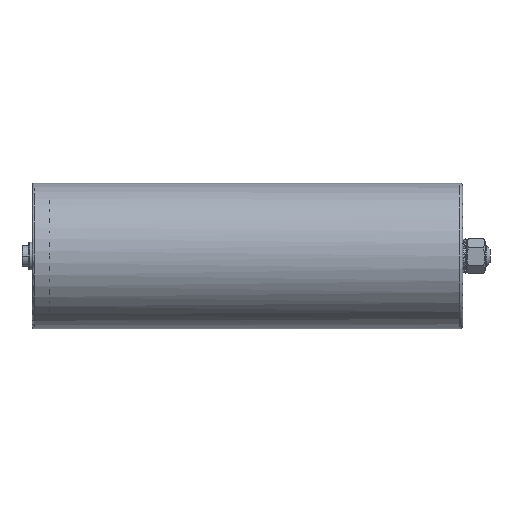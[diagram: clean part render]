
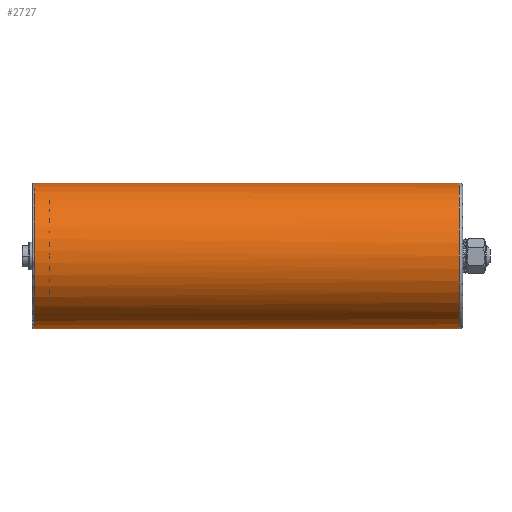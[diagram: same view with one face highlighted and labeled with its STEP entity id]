
A CAD part, left-side view. The second image highlights one B-rep face of the part: STEP entity #2727.
In plain terms, the highlighted cylindrical face has radius 42.5 mm (diameter 85 mm), a partial arc.
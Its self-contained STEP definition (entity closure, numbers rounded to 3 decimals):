
#767 = EDGE_LOOP ( 'NONE', ( #7817, #9267, #3539, #9266, #7613 ) ) ;
#1005 = CARTESIAN_POINT ( 'NONE',  ( -25.343, 250., -34.117 ) ) ;
#1024 = AXIS2_PLACEMENT_3D ( 'NONE', #6797, #8313, #1610 ) ;
#1082 = EDGE_CURVE ( 'NONE', #2530, #4454, #5154, .T. ) ;
#1486 = DIRECTION ( 'NONE',  ( 0., -1., 0. ) ) ;
#1610 = DIRECTION ( 'NONE',  ( 0.596, 0., 0.803 ) ) ;
#1776 = AXIS2_PLACEMENT_3D ( 'NONE', #2095, #5864, #1907 ) ;
#1858 = VECTOR ( 'NONE', #1486, 1000. ) ;
#1907 = DIRECTION ( 'NONE',  ( 0.596, 0., 0.803 ) ) ;
#2068 = AXIS2_PLACEMENT_3D ( 'NONE', #3958, #7081, #9261 ) ;
#2095 = CARTESIAN_POINT ( 'NONE',  ( 0., 250., 0. ) ) ;
#2493 = VERTEX_POINT ( 'NONE', #6908 ) ;
#2530 = VERTEX_POINT ( 'NONE', #7057 ) ;
#2727 = ADVANCED_FACE ( 'NONE', ( #5490 ), #4600, .T. ) ;
#2737 = EDGE_CURVE ( 'NONE', #2493, #3256, #6762, .T. ) ;
#2957 = CARTESIAN_POINT ( 'NONE',  ( 0., 0., -42.5 ) ) ;
#3256 = VERTEX_POINT ( 'NONE', #5947 ) ;
#3539 = ORIENTED_EDGE ( 'NONE', *, *, #5389, .T. ) ;
#3958 = CARTESIAN_POINT ( 'NONE',  ( 0., 2., 0. ) ) ;
#4002 = EDGE_CURVE ( 'NONE', #2493, #4343, #5244, .T. ) ;
#4343 = VERTEX_POINT ( 'NONE', #1005 ) ;
#4454 = VERTEX_POINT ( 'NONE', #7754 ) ;
#4600 = CYLINDRICAL_SURFACE ( 'NONE', #9174, 42.5 ) ;
#5154 = LINE ( 'NONE', #2957, #1858 ) ;
#5244 = CIRCLE ( 'NONE', #1024, 42.5 ) ;
#5294 = DIRECTION ( 'NONE',  ( 0., 0., -1. ) ) ;
#5389 = EDGE_CURVE ( 'NONE', #4343, #2530, #5997, .T. ) ;
#5490 = FACE_OUTER_BOUND ( 'NONE', #767, .T. ) ;
#5864 = DIRECTION ( 'NONE',  ( 0., -1., 0. ) ) ;
#5947 = CARTESIAN_POINT ( 'NONE',  ( 0., 2., 42.5 ) ) ;
#5997 = CIRCLE ( 'NONE', #1776, 42.5 ) ;
#6220 = DIRECTION ( 'NONE',  ( 0., -1., 0. ) ) ;
#6293 = CIRCLE ( 'NONE', #2068, 42.5 ) ;
#6752 = EDGE_CURVE ( 'NONE', #4454, #3256, #6293, .T. ) ;
#6762 = LINE ( 'NONE', #8482, #7586 ) ;
#6797 = CARTESIAN_POINT ( 'NONE',  ( 0., 250., 0. ) ) ;
#6908 = CARTESIAN_POINT ( 'NONE',  ( 0., 250., 42.5 ) ) ;
#6950 = CARTESIAN_POINT ( 'NONE',  ( 0., 0., 0. ) ) ;
#7057 = CARTESIAN_POINT ( 'NONE',  ( 0., 250., -42.5 ) ) ;
#7081 = DIRECTION ( 'NONE',  ( 0., 1., 0. ) ) ;
#7586 = VECTOR ( 'NONE', #6220, 1000. ) ;
#7588 = DIRECTION ( 'NONE',  ( 0., -1., 0. ) ) ;
#7613 = ORIENTED_EDGE ( 'NONE', *, *, #6752, .T. ) ;
#7754 = CARTESIAN_POINT ( 'NONE',  ( 0., 2., -42.5 ) ) ;
#7817 = ORIENTED_EDGE ( 'NONE', *, *, #2737, .F. ) ;
#8313 = DIRECTION ( 'NONE',  ( 0., -1., 0. ) ) ;
#8482 = CARTESIAN_POINT ( 'NONE',  ( 0., 0., 42.5 ) ) ;
#9174 = AXIS2_PLACEMENT_3D ( 'NONE', #6950, #7588, #5294 ) ;
#9261 = DIRECTION ( 'NONE',  ( 0., 0., -1. ) ) ;
#9266 = ORIENTED_EDGE ( 'NONE', *, *, #1082, .T. ) ;
#9267 = ORIENTED_EDGE ( 'NONE', *, *, #4002, .T. ) ;
